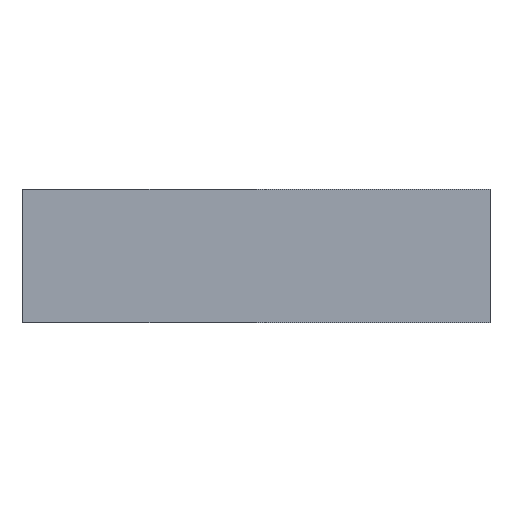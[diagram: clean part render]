
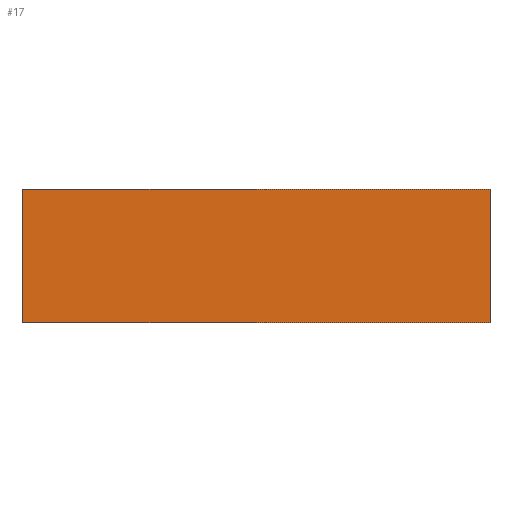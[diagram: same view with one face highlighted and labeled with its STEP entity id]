
A CAD part, left-side view. The second image highlights one B-rep face of the part: STEP entity #17.
In plain terms, the highlighted planar face has unit normal (-1, 0, 0).
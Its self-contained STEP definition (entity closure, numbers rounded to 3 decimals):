
#17 = ADVANCED_FACE('',(#18),#32,.F.);
#18 = FACE_BOUND('',#19,.F.);
#19 = EDGE_LOOP('',(#20,#55,#83,#111));
#20 = ORIENTED_EDGE('',*,*,#21,.F.);
#21 = EDGE_CURVE('',#22,#24,#26,.T.);
#22 = VERTEX_POINT('',#23);
#23 = CARTESIAN_POINT('',(96.,84.,136.));
#24 = VERTEX_POINT('',#25);
#25 = CARTESIAN_POINT('',(96.,84.,140.));
#26 = SURFACE_CURVE('',#27,(#31,#43),.PCURVE_S1.);
#27 = LINE('',#28,#29);
#28 = CARTESIAN_POINT('',(96.,84.,136.));
#29 = VECTOR('',#30,1.);
#30 = DIRECTION('',(0.,0.,1.));
#31 = PCURVE('',#32,#37);
#32 = PLANE('',#33);
#33 = AXIS2_PLACEMENT_3D('',#34,#35,#36);
#34 = CARTESIAN_POINT('',(96.,84.,136.));
#35 = DIRECTION('',(1.,0.,-0.));
#36 = DIRECTION('',(0.,0.,1.));
#37 = DEFINITIONAL_REPRESENTATION('',(#38),#42);
#38 = LINE('',#39,#40);
#39 = CARTESIAN_POINT('',(0.,0.));
#40 = VECTOR('',#41,1.);
#41 = DIRECTION('',(1.,0.));
#42 = ( GEOMETRIC_REPRESENTATION_CONTEXT(2)
PARAMETRIC_REPRESENTATION_CONTEXT() REPRESENTATION_CONTEXT('2D SPACE',''
  ) );
#43 = PCURVE('',#44,#49);
#44 = PLANE('',#45);
#45 = AXIS2_PLACEMENT_3D('',#46,#47,#48);
#46 = CARTESIAN_POINT('',(96.,84.,136.));
#47 = DIRECTION('',(-0.,1.,0.));
#48 = DIRECTION('',(0.,0.,1.));
#49 = DEFINITIONAL_REPRESENTATION('',(#50),#54);
#50 = LINE('',#51,#52);
#51 = CARTESIAN_POINT('',(0.,0.));
#52 = VECTOR('',#53,1.);
#53 = DIRECTION('',(1.,0.));
#54 = ( GEOMETRIC_REPRESENTATION_CONTEXT(2)
PARAMETRIC_REPRESENTATION_CONTEXT() REPRESENTATION_CONTEXT('2D SPACE',''
  ) );
#55 = ORIENTED_EDGE('',*,*,#56,.T.);
#56 = EDGE_CURVE('',#22,#57,#59,.T.);
#57 = VERTEX_POINT('',#58);
#58 = CARTESIAN_POINT('',(96.,98.,136.));
#59 = SURFACE_CURVE('',#60,(#64,#71),.PCURVE_S1.);
#60 = LINE('',#61,#62);
#61 = CARTESIAN_POINT('',(96.,84.,136.));
#62 = VECTOR('',#63,1.);
#63 = DIRECTION('',(-0.,1.,0.));
#64 = PCURVE('',#32,#65);
#65 = DEFINITIONAL_REPRESENTATION('',(#66),#70);
#66 = LINE('',#67,#68);
#67 = CARTESIAN_POINT('',(0.,0.));
#68 = VECTOR('',#69,1.);
#69 = DIRECTION('',(0.,-1.));
#70 = ( GEOMETRIC_REPRESENTATION_CONTEXT(2)
PARAMETRIC_REPRESENTATION_CONTEXT() REPRESENTATION_CONTEXT('2D SPACE',''
  ) );
#71 = PCURVE('',#72,#77);
#72 = PLANE('',#73);
#73 = AXIS2_PLACEMENT_3D('',#74,#75,#76);
#74 = CARTESIAN_POINT('',(96.,84.,136.));
#75 = DIRECTION('',(0.,0.,1.));
#76 = DIRECTION('',(1.,0.,-0.));
#77 = DEFINITIONAL_REPRESENTATION('',(#78),#82);
#78 = LINE('',#79,#80);
#79 = CARTESIAN_POINT('',(0.,0.));
#80 = VECTOR('',#81,1.);
#81 = DIRECTION('',(0.,1.));
#82 = ( GEOMETRIC_REPRESENTATION_CONTEXT(2)
PARAMETRIC_REPRESENTATION_CONTEXT() REPRESENTATION_CONTEXT('2D SPACE',''
  ) );
#83 = ORIENTED_EDGE('',*,*,#84,.T.);
#84 = EDGE_CURVE('',#57,#85,#87,.T.);
#85 = VERTEX_POINT('',#86);
#86 = CARTESIAN_POINT('',(96.,98.,140.));
#87 = SURFACE_CURVE('',#88,(#92,#99),.PCURVE_S1.);
#88 = LINE('',#89,#90);
#89 = CARTESIAN_POINT('',(96.,98.,136.));
#90 = VECTOR('',#91,1.);
#91 = DIRECTION('',(0.,0.,1.));
#92 = PCURVE('',#32,#93);
#93 = DEFINITIONAL_REPRESENTATION('',(#94),#98);
#94 = LINE('',#95,#96);
#95 = CARTESIAN_POINT('',(0.,-14.));
#96 = VECTOR('',#97,1.);
#97 = DIRECTION('',(1.,0.));
#98 = ( GEOMETRIC_REPRESENTATION_CONTEXT(2)
PARAMETRIC_REPRESENTATION_CONTEXT() REPRESENTATION_CONTEXT('2D SPACE',''
  ) );
#99 = PCURVE('',#100,#105);
#100 = PLANE('',#101);
#101 = AXIS2_PLACEMENT_3D('',#102,#103,#104);
#102 = CARTESIAN_POINT('',(96.,98.,136.));
#103 = DIRECTION('',(-0.,1.,0.));
#104 = DIRECTION('',(0.,0.,1.));
#105 = DEFINITIONAL_REPRESENTATION('',(#106),#110);
#106 = LINE('',#107,#108);
#107 = CARTESIAN_POINT('',(0.,0.));
#108 = VECTOR('',#109,1.);
#109 = DIRECTION('',(1.,0.));
#110 = ( GEOMETRIC_REPRESENTATION_CONTEXT(2)
PARAMETRIC_REPRESENTATION_CONTEXT() REPRESENTATION_CONTEXT('2D SPACE',''
  ) );
#111 = ORIENTED_EDGE('',*,*,#112,.F.);
#112 = EDGE_CURVE('',#24,#85,#113,.T.);
#113 = SURFACE_CURVE('',#114,(#118,#125),.PCURVE_S1.);
#114 = LINE('',#115,#116);
#115 = CARTESIAN_POINT('',(96.,84.,140.));
#116 = VECTOR('',#117,1.);
#117 = DIRECTION('',(-0.,1.,0.));
#118 = PCURVE('',#32,#119);
#119 = DEFINITIONAL_REPRESENTATION('',(#120),#124);
#120 = LINE('',#121,#122);
#121 = CARTESIAN_POINT('',(4.,0.));
#122 = VECTOR('',#123,1.);
#123 = DIRECTION('',(0.,-1.));
#124 = ( GEOMETRIC_REPRESENTATION_CONTEXT(2)
PARAMETRIC_REPRESENTATION_CONTEXT() REPRESENTATION_CONTEXT('2D SPACE',''
  ) );
#125 = PCURVE('',#126,#131);
#126 = PLANE('',#127);
#127 = AXIS2_PLACEMENT_3D('',#128,#129,#130);
#128 = CARTESIAN_POINT('',(96.,84.,140.));
#129 = DIRECTION('',(0.,0.,1.));
#130 = DIRECTION('',(1.,0.,-0.));
#131 = DEFINITIONAL_REPRESENTATION('',(#132),#136);
#132 = LINE('',#133,#134);
#133 = CARTESIAN_POINT('',(0.,0.));
#134 = VECTOR('',#135,1.);
#135 = DIRECTION('',(0.,1.));
#136 = ( GEOMETRIC_REPRESENTATION_CONTEXT(2)
PARAMETRIC_REPRESENTATION_CONTEXT() REPRESENTATION_CONTEXT('2D SPACE',''
  ) );
